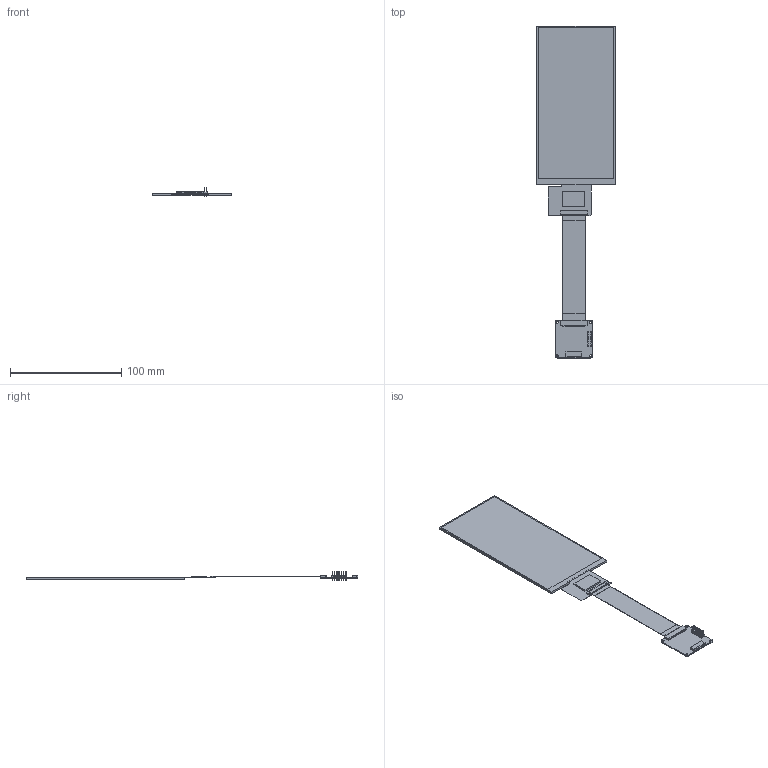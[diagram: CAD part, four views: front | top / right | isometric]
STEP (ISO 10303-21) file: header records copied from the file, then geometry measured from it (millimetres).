
FILE_DESCRIPTION((''),'2;1');
FILE_NAME('TS060WVV02NP-I1360A-V00-241218','2024-12-18T17:59:13',('Shaozi'),(''),'CREO PARAMETRIC BY PTC INC, 2024063','CREO PARAMETRIC BY PTC INC, 2024063','');
FILE_SCHEMA(('AUTOMOTIVE_DESIGN { 1 0 10303 214 1 1 1 1 }'));
Length unit declared in the file: millimetre
Products named in the file (1): TS060WVV02NP-I1360A-V00-241218
Bounding box: 70.24 x 298.86 x 8.8 mm (x, y, z)
Surface area: 30714.6 mm2 (no closed solid volume)
Topology: 0 solids, 22 shells, 327 faces, 964 edges, 670 vertices
Faces by surface type: plane 313, cylinder 14
Entity records: 12581 total; most frequent: CARTESIAN_POINT 1961, ORIENTED_EDGE 1690, DIRECTION 1650, EDGE_CURVE 964, VECTOR 932, LINE 932, VERTEX_POINT 670, AXIS2_PLACEMENT_3D 359
